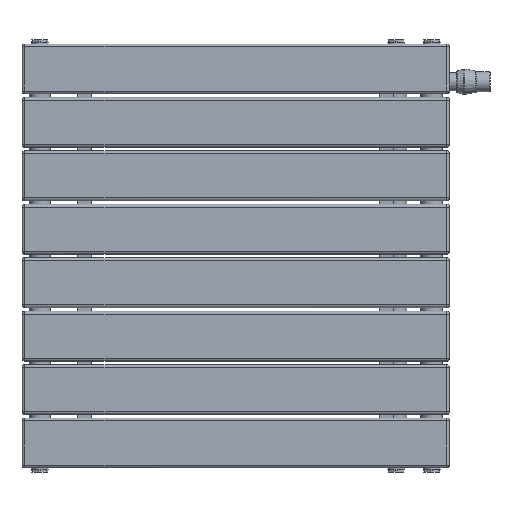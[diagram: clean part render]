
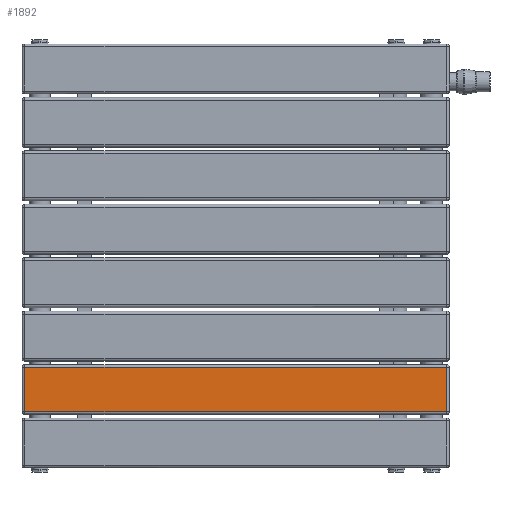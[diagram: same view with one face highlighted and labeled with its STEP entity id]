
A CAD part, top view. The second image highlights one B-rep face of the part: STEP entity #1892.
In plain terms, the highlighted planar face has unit normal (0, 0, 1) as drawn and (0, -1, 0) by its records, which use the part's own axes.
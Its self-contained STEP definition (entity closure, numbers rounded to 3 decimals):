
#349=LINE('',#3046,#473);
#350=LINE('',#3048,#474);
#351=LINE('',#3050,#475);
#352=LINE('',#3051,#476);
#473=VECTOR('',#2394,10.);
#474=VECTOR('',#2395,10.);
#475=VECTOR('',#2396,10.);
#476=VECTOR('',#2397,10.);
#591=PLANE('',#2086);
#693=FACE_OUTER_BOUND('',#808,.T.);
#808=EDGE_LOOP('',(#1434,#1435,#1436,#1437));
#1032=VERTEX_POINT('',#3044);
#1033=VERTEX_POINT('',#3045);
#1034=VERTEX_POINT('',#3047);
#1035=VERTEX_POINT('',#3049);
#1190=EDGE_CURVE('',#1032,#1033,#349,.T.);
#1191=EDGE_CURVE('',#1034,#1032,#350,.T.);
#1192=EDGE_CURVE('',#1035,#1034,#351,.T.);
#1193=EDGE_CURVE('',#1033,#1035,#352,.T.);
#1434=ORIENTED_EDGE('',*,*,#1190,.F.);
#1435=ORIENTED_EDGE('',*,*,#1191,.F.);
#1436=ORIENTED_EDGE('',*,*,#1192,.F.);
#1437=ORIENTED_EDGE('',*,*,#1193,.F.);
#1892=ADVANCED_FACE('',(#693),#591,.T.);
#2086=AXIS2_PLACEMENT_3D('',#3043,#2392,#2393);
#2392=DIRECTION('center_axis',(0.,-1.,0.));
#2393=DIRECTION('ref_axis',(1.,0.,0.));
#2394=DIRECTION('',(-1.,0.,0.));
#2395=DIRECTION('',(0.,0.,-1.));
#2396=DIRECTION('',(1.,0.,0.));
#2397=DIRECTION('',(0.,0.,1.));
#3043=CARTESIAN_POINT('Origin',(-31.,-8.,0.));
#3044=CARTESIAN_POINT('',(31.,-8.,-296.));
#3045=CARTESIAN_POINT('',(-31.,-8.,-296.));
#3046=CARTESIAN_POINT('',(-15.5,-8.,-296.));
#3047=CARTESIAN_POINT('',(31.,-8.,296.));
#3048=CARTESIAN_POINT('',(31.,-8.,0.));
#3049=CARTESIAN_POINT('',(-31.,-8.,296.));
#3050=CARTESIAN_POINT('',(-15.5,-8.,296.));
#3051=CARTESIAN_POINT('',(-31.,-8.,0.));
